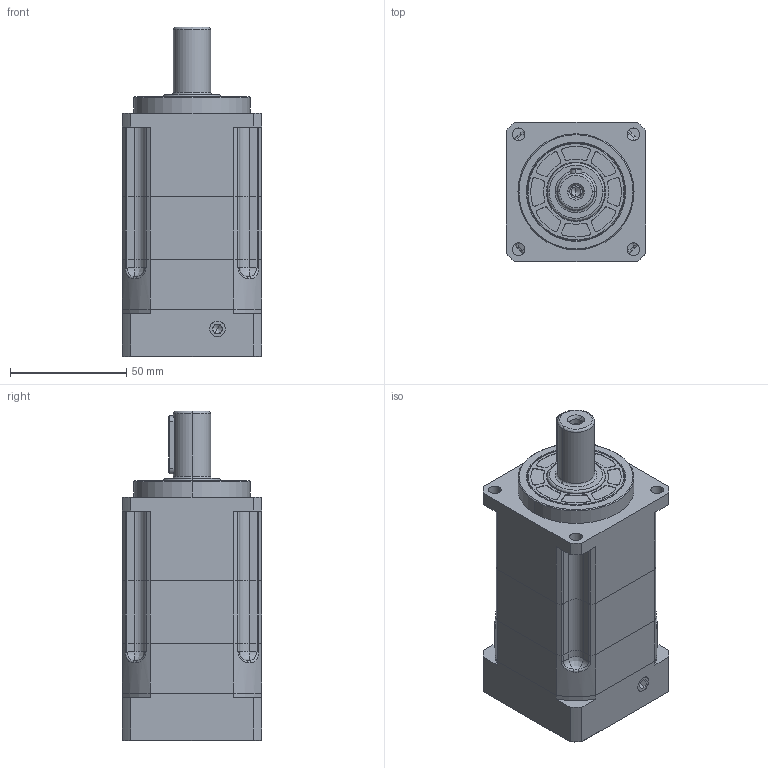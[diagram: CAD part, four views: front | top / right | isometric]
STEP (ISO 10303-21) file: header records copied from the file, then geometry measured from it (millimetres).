
FILE_DESCRIPTION (( 'STEP AP214' ), '1' );
FILE_NAME ('OB062L2-50-14-M4.STEP', '2020-08-10T09:15:00', ( '微软用户' ), ( '微软中国' ), 'SwSTEP 2.0', 'SolidWorks 2014', '' );
FILE_SCHEMA (( 'AUTOMOTIVE_DESIGN' ));
Length unit declared in the file: millimetre
Products named in the file (113): Hexagon socket countersunk head screws GB_GB_FASTENER_SCREWS_HSCHS M3X10-N; Circlips for holes--Type A GB_GB_CONNECTING_PIECE_RING_RRH 42; Hexagon socket head cap screws GB_GB_FASTENER_SCREWS_HSHCS M4X20-N; 俴陎粣5X18.5; 俴陎謫菜え5.5X12; 俴陎殤8A; 蚐猾25X42X7; Plain parallel keys_GB_CONNECTING_PIECE_KEYS_CSK 5X25; 粣創揤啣; 怀堤粣5A; Spring lock washers--Normal type GB_GB_FASTENER_WASHER_SW 4; 珨撰怮栠謫5A; Circlips for shaft--Type A large GB_GB_CONNECTING_PIECE_RING_RRA 25; Hex socket set screws with flat point GB_GB_FAR_SCREWS_HSFP M8X10-N; 幗渀粣創5X8X8; Circlips for hole--Type B GB_GB_CONNECTING_PIECE_RINGS_CHB 30; 怮栠謫8A; Plain parallel keys_GB_CONNECTING_PIECE_KEYS_CSK C3X12; Deep groove ball bearings GB_Rolling bearings 61808 GB 276-94; 珨撰薊粣ん14K6; Plain parallel keys_GB_CONNECTING_PIECE_KEYS_CSK C2X12; 二级齿圈Z84; 珨撰俴陎謫5A; Deep groove ball bearings GB_Rolling bearings 61905 GB 276-94; Circlips for hole--Type B GB_GB_CONNECTING_PIECE_RINGS_CHB 52; 珨撰萇儂楊擘50; Hexagon socket head cap screws GB_GB_FASTENER_SCREWS_HSHCS M5X16-N; Hexagon socket head cap screws GB_GB_FASTENER_SCREWS_HSHCS M4X40-N; 珨撰笢潔楊擘; 一级齿圈Z84; 俴陎謫8A; OB062L2-50-14-M4
Assembly tree (81 placements, depth 2):
  Hexagon socket countersunk head screws GB_GB_FASTENER_SCREWS_HSCHS M3X10-N
  Hexagon socket head cap screws GB_GB_FASTENER_SCREWS_HSHCS M4X20-N
  俴陎粣5X18.5
  俴陎謫菜え5.5X12
  Hexagon socket countersunk head screws GB_GB_FASTENER_SCREWS_HSCHS M3X10-N
Bounding box: 60 x 60 x 142 mm (x, y, z)
Volume: 289382.2 mm3; surface area: 160269.9 mm2
Topology: 81 solids, 81 shells, 2620 faces, 8403 edges, 5133 vertices
Faces by surface type: bspline 840, cylinder 832, plane 641, cone 279, torus 28
Entity records: 68595 total; most frequent: CARTESIAN_POINT 25894, ORIENTED_EDGE 9202, DIRECTION 7800, EDGE_CURVE 4601, AXIS2_PLACEMENT_3D 3254, VERTEX_POINT 3035, CIRCLE 2031, EDGE_LOOP 1788
